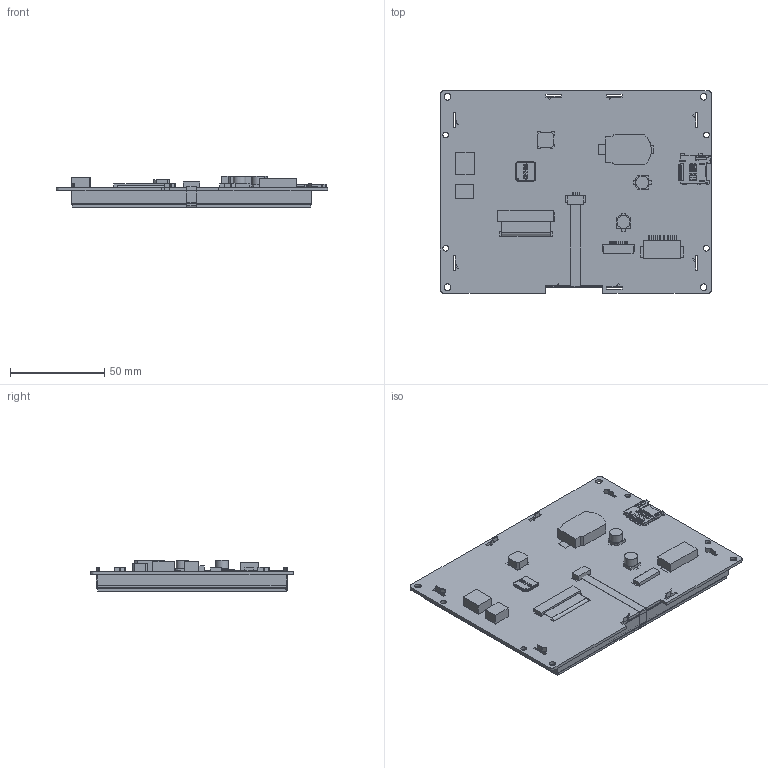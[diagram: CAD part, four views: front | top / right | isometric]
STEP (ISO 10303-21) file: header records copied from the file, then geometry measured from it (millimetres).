
FILE_DESCRIPTION(/* description */ (''),/* implementation_level */ '2;1');
FILE_NAME(/* name */ '',/* time_stamp */ '2022-03-29T19:26:43+08:00',/* author */ (''),/* organization */ (''),/* preprocessor_version */ 'ST-DEVELOPER v11',/* originating_system */ 'SIEMENS PLM Software NX 7.5',/* authorisation */ '');
FILE_SCHEMA (('AP203_CONFIGURATION_CONTROLLED_3D_DESIGN_OF_MECHANICAL_PARTS_AND_ASSEMBLIES_MIM_LF'));
Products named in the file (1): SDWb056T74T
Bounding box: 143.51 x 107.41 x 16.61 mm (x, y, z)
Surface area: 190192.7 mm2
Topology: 41 solids, 41 shells, 2741 faces, 7649 edges, 5040 vertices
Faces by surface type: plane 2305, cylinder 427, bspline 7, extrusion 1, cone 1
Full cylindrical faces by diameter (mm): 3 x4, 3.5 x4, 6.776 x2
Entity records: 89069 total; most frequent: CARTESIAN_POINT 16211, ORIENTED_EDGE 15222, DIRECTION 13803, EDGE_CURVE 7611, VECTOR 6663, LINE 6662, VERTEX_POINT 5003, AXIS2_PLACEMENT_3D 3570
